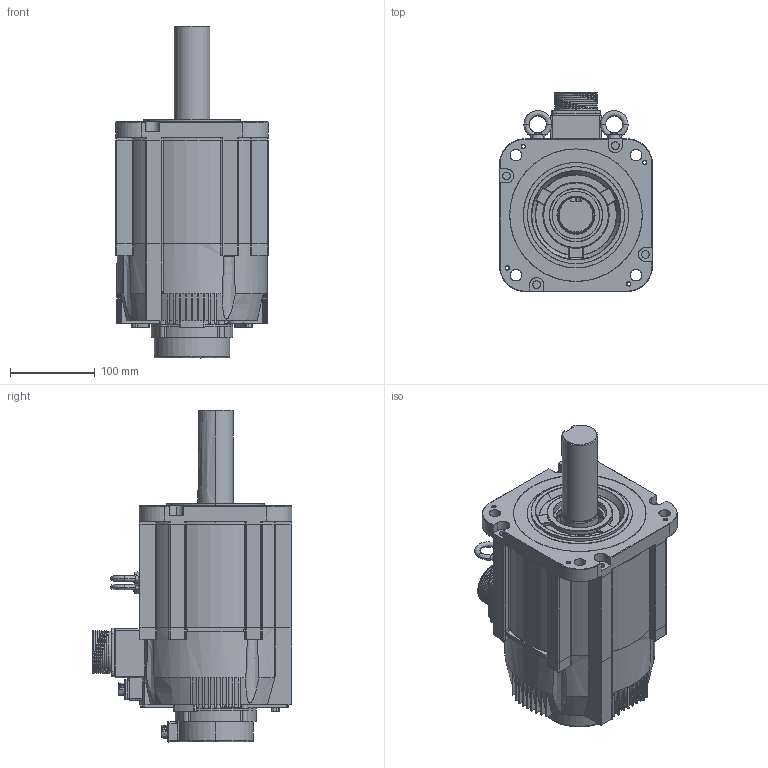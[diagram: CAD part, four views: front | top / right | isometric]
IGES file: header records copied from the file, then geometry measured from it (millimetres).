
Start section: SolidWorks IGES file using analytic representation for surfaces
Global section: file name: C:\Users\11755\Desktop\騰禾380V\外型圖\SMP系列_馬達外型圖(客戶版)\3D-IGES\SMP-H550B.IGS; native system: SolidWorks 2016; preprocessor: SolidWorks 2016; author: 11755; date: 210504.135654; units: millimetre
Bounding box: 180 x 235.3 x 391 mm (x, y, z)
Surface area: 368486.5 mm2 (no closed solid volume)
Topology: 0 solids, 0 shells, 993 faces, 12242 edges, 12237 vertices
Faces by surface type: revolution 513, bspline 480
